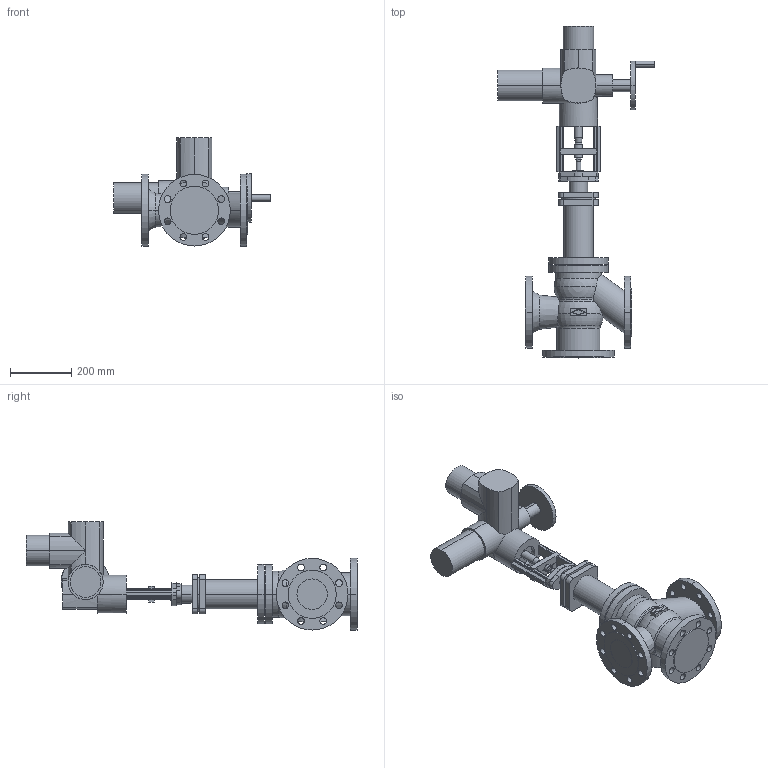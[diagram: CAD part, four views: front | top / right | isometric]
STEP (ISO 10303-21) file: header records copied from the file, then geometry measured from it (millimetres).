
FILE_DESCRIPTION(('OneSpaceDesigner STEP Export'),'2;1');
FILE_NAME('c000003223.stp','2007-01-25T12:06:58',(''),(''),'OneSpace Designer STEP processor for AP214 (Solid Model)','OneSpace Designer 14.00B 27-May-2006 (C) CoCreate Software GmbH','');
FILE_SCHEMA(('AUTOMOTIVE_DESIGN { 1 0 10303 214 1 1 1 1 }'));
Length unit declared in the file: millimetre
Products named in the file (2): 1; 2
Bounding box: 514 x 1087.7 x 354.5 mm (x, y, z)
Volume: 21547794 mm3; surface area: 1146122.2 mm2
Topology: 2 solids, 2 shells, 345 faces, 897 edges, 575 vertices
Faces by surface type: cylinder 182, plane 139, torus 12, cone 8, sphere 4
Entity records: 10150 total; most frequent: CARTESIAN_POINT 2290, ORIENTED_EDGE 1786, DIRECTION 1438, EDGE_CURVE 893, VERTEX_POINT 575, AXIS2_PLACEMENT_3D 497, VECTOR 444, LINE 444
